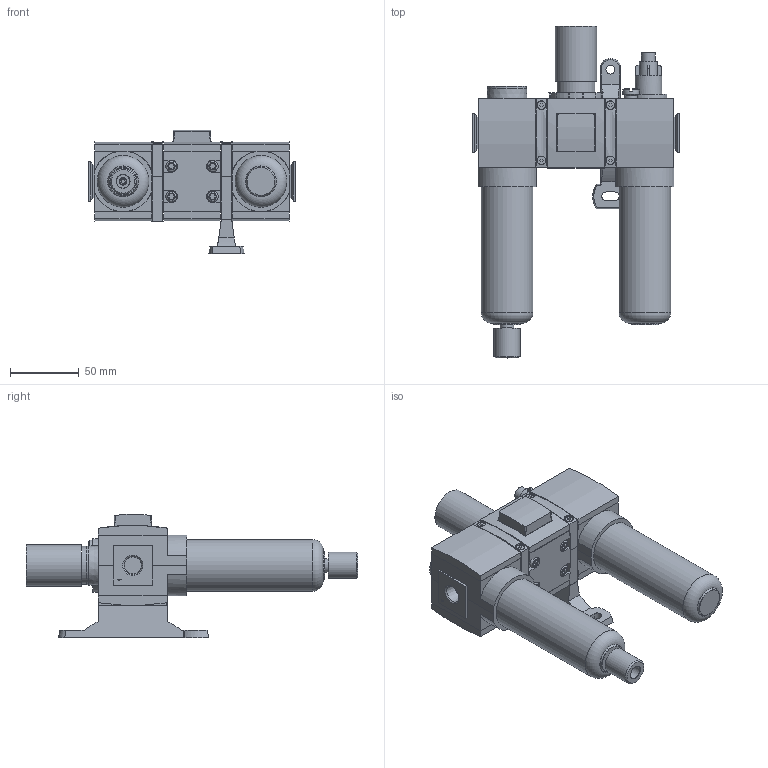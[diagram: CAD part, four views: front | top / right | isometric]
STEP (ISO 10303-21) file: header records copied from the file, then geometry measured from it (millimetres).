
FILE_DESCRIPTION( ( 'STEP AP214' ), '1' );
FILE_NAME( 'p:/temp/worker_226/temp/exporttempdir_3832_157_0356B/format_0/07312020-190217_gen_14366.stp', '2020-02-07T18:31:19', ( '' ), ( '' ), ' ', 'PARTsolutions', ' ' );
FILE_SCHEMA( ( 'AUTOMOTIVE_DESIGN { 1 0 10303 214 1 1 1 1 }' ) );
Length unit declared in the file: millimetre
Products named in the file (15): 07312020-190217_gen_14366; _514892-010-F; _1437740-001-R-0; _439851-002_; _434133-001; _440512-002; _G651ASLA0A00A00_LS; _434510-010-F-L; _1437740-001-R-1; _438047-009_651_gauge; _433894-001_BONNET; _504924-001-STANDARD_651; _504323-004; _G651ASLA0B00A00_LS; _433456-008-F-
Assembly tree (19 placements, depth 2):
  07312020-190217_gen_14366
    _514892-010-F
    _1437740-001-R-0  x5
    _439851-002_
    _434133-001  x2
    _440512-002
    _G651ASLA0A00A00_LS
    _434510-010-F-L
    _1437740-001-R-1
    _438047-009_651_gauge
    _433894-001_BONNET
    _504924-001-STANDARD_651
    _504323-004
    _G651ASLA0B00A00_LS
    _433456-008-F-
Bounding box: 150 x 240.77 x 89.41 mm (x, y, z)
Volume: 710148.7 mm3; surface area: 159147.5 mm2
Topology: 19 solids, 19 shells, 694 faces, 1680 edges, 1088 vertices
Faces by surface type: plane 467, cylinder 157, cone 47, torus 20, bspline 2, sphere 1
Full cylindrical faces by diameter (mm): 2.5 x4, 2.8 x2, 3 x2, 3.5 x4, 4.3 x4, 5 x1, 5.6 x4, 6 x5, 6.5 x1, 8 x4, 9.3 x1, 9.728 x2, 10 x1, 11.7 x1, 13 x1, 19 x1, 19.4 x1, 20 x3, 20.2 x2, 22.25 x2, 22.4 x1, 25.5 x3, 27 x1, 27.53 x1, 30 x1, 35 x2, 37.5 x2
Entity records: 24686 total; most frequent: CARTESIAN_POINT 3971, DIRECTION 3162, ORIENTED_EDGE 2970, EDGE_CURVE 1485, AXIS2_PLACEMENT_3D 1088, VERTEX_POINT 1022, LINE 986, VECTOR 986
